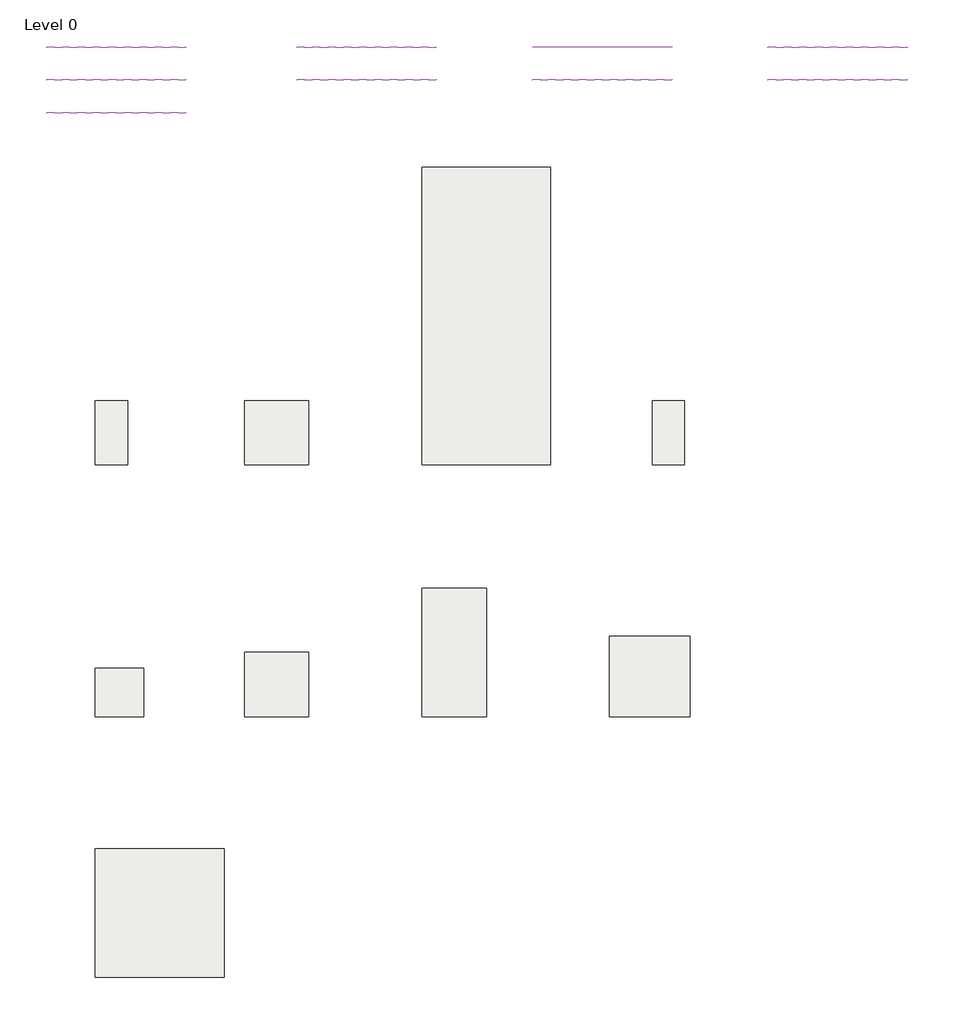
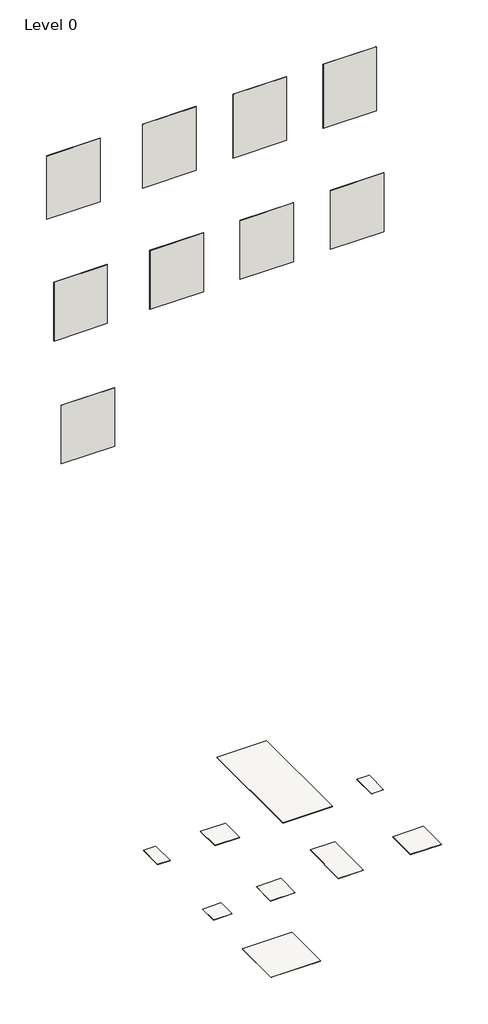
# One storey: 9 slabs, 9 walls.
"""IFC4 building model written with IfcOpenShell, lengths in millimetres."""

from ifc_helpers import new_model, si_unit, frame, origin, place, context, project, spatial, polyline, outline, extrude, element, save

model = new_model("IFC4")

# Units and contexts
model_context = context("Model", 3, world=origin())
ifc_project = project(units=[si_unit("LENGTHUNIT", "METRE", prefix="MILLI")], contexts=[model_context])

# Site, building, storey
site = spatial("IfcSite", under=ifc_project)
building = spatial("IfcBuilding", under=site)
storey = spatial("IfcBuildingStorey", under=building, Name="Level 0", Elevation=0.0)

# Slabs
placement = place(None, origin())
element("IfcSlab", 1, ObjectType="Floor_Tiles_Refin-Creos-Bride-30x60 NC99", at=placement, inside=storey, context=model_context, shape_type="SweptSolid", body=[
    extrude(outline(polyline([(6674.3752062, 4839.4623743), (6674.3752062, 4239.4623743), (6374.3752062, 4239.4623743), (6374.3752062, 4839.4623743), (6674.3752062, 4839.4623743)])), frame((0.0, 0.0, -10.0), z_axis=(0.0, 0.0, 1.0), x_axis=(1.0, 0.0, 0.0)), (0.0, 0.0, 1.0), 10.0),
])
element("IfcSlab", 2, ObjectType="Floor_Tiles_Refin-Creos-Bride-120x278 MK86", at=placement, inside=storey, context=model_context, shape_type="SweptSolid", body=[
    extrude(outline(polyline([(10627.1861419, 7019.4623743), (10627.1861419, 4239.4623743), (9427.1861419, 4239.4623743), (9427.1861419, 7019.4623743), (10627.1861419, 7019.4623743)])), frame((0.0, 0.0, -7.0), z_axis=(0.0, 0.0, 1.0), x_axis=(1.0, 0.0, 0.0)), (0.0, 0.0, 1.0), 7.0),
])
element("IfcSlab", 3, ObjectType="Floor_Tiles_Refin-Creos-Bride-60x60 NA60", at=placement, inside=storey, context=model_context, shape_type="SweptSolid", body=[
    extrude(outline(polyline([(8367.3924055, 4838.4192064), (8367.3924055, 4238.4192064), (7767.3924055, 4238.4192064), (7767.3924055, 4838.4192064), (8367.3924055, 4838.4192064)])), frame((0.0, 0.0, -10.0), z_axis=(0.0, 0.0, 1.0), x_axis=(1.0, 0.0, 0.0)), (0.0, 0.0, 1.0), 10.0),
])
element("IfcSlab", 4, ObjectType="Floor_Tiles_Refin-Creos-Bride-Soft-30x60 ND00", at=placement, inside=storey, context=model_context, shape_type="SweptSolid", body=[
    extrude(outline(polyline([(11877.1861419, 4838.4192064), (11877.1861419, 4238.4192064), (11577.1861419, 4238.4192064), (11577.1861419, 4838.4192064), (11877.1861419, 4838.4192064)])), frame((0.0, 0.0, -10.0), z_axis=(0.0, 0.0, 1.0), x_axis=(1.0, 0.0, 0.0)), (0.0, 0.0, 1.0), 10.0),
])
element("IfcSlab", 5, ObjectType="Floor_Tiles_Refin-Creos-Bride-Soft-60x60 NA51", at=placement, inside=storey, context=model_context, shape_type="SweptSolid", body=[
    extrude(outline(polyline([(8367.3924055, 2489.4623743), (8367.3924055, 1889.4623743), (7767.3924055, 1889.4623743), (7767.3924055, 2489.4623743), (8367.3924055, 2489.4623743)])), frame((0.0, 0.0, -10.0), z_axis=(0.0, 0.0, 1.0), x_axis=(1.0, 0.0, 0.0)), (0.0, 0.0, 1.0), 10.0),
])
element("IfcSlab", 6, ObjectType="Floor_Tiles_Refin-Creos-Bride-Soft-75x75 NU51", at=placement, inside=storey, context=model_context, shape_type="SweptSolid", body=[
    extrude(outline(polyline([(11927.1861419, 2639.4623743), (11927.1861419, 1889.4623743), (11177.1861419, 1889.4623743), (11177.1861419, 2639.4623743), (11927.1861419, 2639.4623743)])), frame((0.0, 0.0, -10.0), z_axis=(0.0, 0.0, 1.0), x_axis=(1.0, 0.0, 0.0)), (0.0, 0.0, 1.0), 10.0),
])
element("IfcSlab", 7, ObjectType="Floor_Tiles_Refin-Creos-Bride-Soft-45x45 ND67", at=placement, inside=storey, context=model_context, shape_type="SweptSolid", body=[
    extrude(outline(polyline([(6824.3752062, 2339.4623743), (6824.3752062, 1889.4623743), (6374.3752062, 1889.4623743), (6374.3752062, 2339.4623743), (6824.3752062, 2339.4623743)])), frame((0.0, 0.0, -10.5), z_axis=(0.0, 0.0, 1.0), x_axis=(1.0, 0.0, 0.0)), (0.0, 0.0, 1.0), 10.5),
])
element("IfcSlab", 8, ObjectType="Floor_Tiles_Refin-Creos-Bride-Soft-60x120 NA62", at=placement, inside=storey, context=model_context, shape_type="SweptSolid", body=[
    extrude(outline(polyline([(10027.1861419, 3089.4623743), (10027.1861419, 1889.4623743), (9427.1861419, 1889.4623743), (9427.1861419, 3089.4623743), (10027.1861419, 3089.4623743)])), frame((0.0, 0.0, -10.0), z_axis=(0.0, 0.0, 1.0), x_axis=(1.0, 0.0, 0.0)), (0.0, 0.0, 1.0), 10.0),
])
element("IfcSlab", 9, ObjectType="Floor_Tiles_Refin-Creos-Bride-Soft-120x120 MK20", at=placement, inside=storey, context=model_context, shape_type="SweptSolid", body=[
    extrude(outline(polyline([(7574.3752062, 653.4367235), (7574.3752062, -546.5632765), (6374.3752062, -546.5632765), (6374.3752062, 653.4367235), (7574.3752062, 653.4367235)])), frame((0.0, 0.0, -10.0), z_axis=(0.0, 0.0, 1.0), x_axis=(1.0, 0.0, 0.0)), (0.0, 0.0, 1.0), 10.0),
])

# Walls
element("IfcWall", 10, ObjectType="Wall_Tiles_Refin-Creos-Bride-60x60 NA60", at=placement, inside=storey, context=model_context, shape_type="SweptSolid", body=[
    extrude(outline(polyline([(9557.3752062, 8132.3838631), (8257.3752062, 8132.3838631), (8257.3752062, 8142.3838631), (9557.3752062, 8142.3838631), (9557.3752062, 8132.3838631)])), frame((0.0, 0.0, 14387.6770443), z_axis=(0.0, 0.0, 1.0), x_axis=(1.0, 0.0, 0.0)), (0.0, 0.0, 1.0), 1641.7417352),
])
element("IfcWall", 11, ObjectType="Wall_Tiles_Refin-Creos-Bride-120x278 MK86", at=placement, inside=storey, context=model_context, shape_type="SweptSolid", body=[
    extrude(outline(polyline([(11757.3752062, 8133.8838631), (10457.3752062, 8133.8838631), (10457.3752062, 8140.8838631), (11757.3752062, 8140.8838631), (11757.3752062, 8133.8838631)])), frame((0.0, 0.0, 14387.6770443), z_axis=(0.0, 0.0, 1.0), x_axis=(1.0, 0.0, 0.0)), (0.0, 0.0, 1.0), 1641.7417352),
])
element("IfcWall", 12, ObjectType="Wall_Tiles_Refin-Creos-Bride-30x60 NC99", at=placement, inside=storey, context=model_context, shape_type="SweptSolid", body=[
    extrude(outline(polyline([(7217.3752062, 8132.3838631), (5917.3752062, 8132.3838631), (5917.3752062, 8142.3838631), (7217.3752062, 8142.3838631), (7217.3752062, 8132.3838631)])), frame((0.0, 0.0, 14403.7267346), z_axis=(0.0, 0.0, 1.0), x_axis=(1.0, 0.0, 0.0)), (0.0, 0.0, 1.0), 1625.692045),
])
element("IfcWall", 13, ObjectType="Wall_Tiles_Refin-Creos-Bride-Soft-45x45 ND67", at=placement, inside=storey, context=model_context, shape_type="SweptSolid", body=[
    extrude(outline(polyline([(7217.3752062, 7827.1338631), (5917.3752062, 7827.1338631), (5917.3752062, 7837.6338631), (7217.3752062, 7837.6338631), (7217.3752062, 7827.1338631)])), frame((0.0, 0.0, 11452.5436262), z_axis=(0.0, 0.0, 1.0), x_axis=(1.0, 0.0, 0.0)), (0.0, 0.0, 1.0), 1513.1985566),
])
element("IfcWall", 14, ObjectType="Wall_Tiles_Refin-Creos-Bride-Soft-60x60 NA51", at=placement, inside=storey, context=model_context, shape_type="SweptSolid", body=[
    extrude(outline(polyline([(9557.3752062, 7827.3838631), (8257.3752062, 7827.3838631), (8257.3752062, 7837.3838631), (9557.3752062, 7837.3838631), (9557.3752062, 7827.3838631)])), frame((0.0, 0.0, 11452.5436262), z_axis=(0.0, 0.0, 1.0), x_axis=(1.0, 0.0, 0.0)), (0.0, 0.0, 1.0), 1513.1985566),
])
element("IfcWall", 15, ObjectType="Wall_Tiles_Refin-Creos-Bride-Soft-60x120 NA62", at=placement, inside=storey, context=model_context, shape_type="SweptSolid", body=[
    extrude(outline(polyline([(11757.3752062, 7827.3838631), (10457.3752062, 7827.3838631), (10457.3752062, 7837.3838631), (11757.3752062, 7837.3838631), (11757.3752062, 7827.3838631)])), frame((0.0, 0.0, 11452.5436262), z_axis=(0.0, 0.0, 1.0), x_axis=(1.0, 0.0, 0.0)), (0.0, 0.0, 1.0), 1513.1985566),
])
element("IfcWall", 16, ObjectType="Wall_Tiles_Refin-Creos-Bride-Soft-120x120 MK20", at=placement, inside=storey, context=model_context, shape_type="SweptSolid", body=[
    extrude(outline(polyline([(7217.3752062, 7522.3838631), (5917.3752062, 7522.3838631), (5917.3752062, 7532.3838631), (7217.3752062, 7532.3838631), (7217.3752062, 7522.3838631)])), frame((0.0, 0.0, 8479.1027214), z_axis=(0.0, 0.0, 1.0), x_axis=(1.0, 0.0, 0.0)), (0.0, 0.0, 1.0), 1502.5740159),
])
element("IfcWall", 17, ObjectType="Wall_Tiles_Refin-Creos-Bride-Soft-30x60 ND00", at=placement, inside=storey, context=model_context, shape_type="SweptSolid", body=[
    extrude(outline(polyline([(13957.3752062, 8132.3838631), (12657.3752062, 8132.3838631), (12657.3752062, 8142.3838631), (13957.3752062, 8142.3838631), (13957.3752062, 8132.3838631)])), frame((0.0, 0.0, 14387.6770443), z_axis=(0.0, 0.0, 1.0), x_axis=(1.0, 0.0, 0.0)), (0.0, 0.0, 1.0), 1641.7417352),
])
element("IfcWall", 18, ObjectType="Wall_Tiles_Refin-Creos-Bride-Soft-75x75 NU51", at=placement, inside=storey, context=model_context, shape_type="SweptSolid", body=[
    extrude(outline(polyline([(13957.3752062, 7827.3838631), (12657.3752062, 7827.3838631), (12657.3752062, 7837.3838631), (13957.3752062, 7837.3838631), (13957.3752062, 7827.3838631)])), frame((0.0, 0.0, 11452.5436262), z_axis=(0.0, 0.0, 1.0), x_axis=(1.0, 0.0, 0.0)), (0.0, 0.0, 1.0), 1513.1985566),
])

save(model, "model.ifc")
